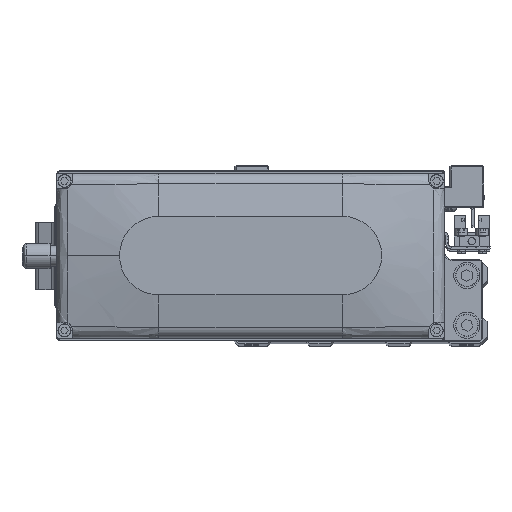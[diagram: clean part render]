
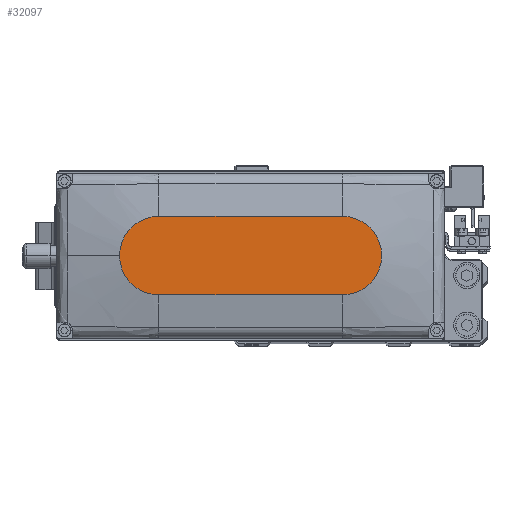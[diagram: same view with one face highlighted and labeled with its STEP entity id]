
A CAD part, top view. The second image highlights one B-rep face of the part: STEP entity #32097.
In plain terms, the highlighted planar face has unit normal (0, 0, 1).
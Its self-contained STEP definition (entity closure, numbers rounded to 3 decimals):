
#557 = EDGE_CURVE ( 'NONE', #7344, #18509, #33860, .T. ) ;
#558 = DIRECTION ( 'NONE',  ( 0., 0., 1. ) ) ;
#2078 = CIRCLE ( 'NONE', #25523, 15. ) ;
#3372 = LINE ( 'NONE', #16159, #13410 ) ;
#5028 = AXIS2_PLACEMENT_3D ( 'NONE', #15061, #27858, #40678 ) ;
#5048 = CARTESIAN_POINT ( 'NONE',  ( -35., 15., 35. ) ) ;
#5105 = CARTESIAN_POINT ( 'NONE',  ( -35., -15., 35. ) ) ;
#5255 = CARTESIAN_POINT ( 'NONE',  ( 35., 0., 35. ) ) ;
#5605 = CARTESIAN_POINT ( 'NONE',  ( 50., 0., 35. ) ) ;
#6434 = EDGE_CURVE ( 'NONE', #22986, #38468, #3372, .T. ) ;
#7344 = VERTEX_POINT ( 'NONE', #40230 ) ;
#8925 = CARTESIAN_POINT ( 'NONE',  ( 0., 0., 35. ) ) ;
#9302 = VECTOR ( 'NONE', #17878, 1000. ) ;
#10974 = CIRCLE ( 'NONE', #16345, 15. ) ;
#11590 = AXIS2_PLACEMENT_3D ( 'NONE', #8925, #21730, #34545 ) ;
#12426 = CARTESIAN_POINT ( 'NONE',  ( 35., -15., 35. ) ) ;
#12802 = ORIENTED_EDGE ( 'NONE', *, *, #27850, .T. ) ;
#13342 = DIRECTION ( 'NONE',  ( 1., 0., 0. ) ) ;
#13410 = VECTOR ( 'NONE', #28974, 1000. ) ;
#13764 = EDGE_CURVE ( 'NONE', #18509, #16479, #2078, .T. ) ;
#14213 = ORIENTED_EDGE ( 'NONE', *, *, #13764, .T. ) ;
#15061 = CARTESIAN_POINT ( 'NONE',  ( 35., 0., 35. ) ) ;
#15256 = ORIENTED_EDGE ( 'NONE', *, *, #557, .T. ) ;
#16159 = CARTESIAN_POINT ( 'NONE',  ( -35., 15., 35. ) ) ;
#16345 = AXIS2_PLACEMENT_3D ( 'NONE', #29314, #558, #13342 ) ;
#16479 = VERTEX_POINT ( 'NONE', #5605 ) ;
#17878 = DIRECTION ( 'NONE',  ( 1., 0., 0. ) ) ;
#18021 = EDGE_LOOP ( 'NONE', ( #31990, #33352, #15256, #14213, #12802 ) ) ;
#18032 = DIRECTION ( 'NONE',  ( 0., 0., 1. ) ) ;
#18509 = VERTEX_POINT ( 'NONE', #12426 ) ;
#21730 = DIRECTION ( 'NONE',  ( 0., 0., 1. ) ) ;
#22986 = VERTEX_POINT ( 'NONE', #37859 ) ;
#23114 = CIRCLE ( 'NONE', #5028, 15. ) ;
#24861 = FACE_OUTER_BOUND ( 'NONE', #18021, .T. ) ;
#25523 = AXIS2_PLACEMENT_3D ( 'NONE', #5255, #18032, #30862 ) ;
#26771 = EDGE_CURVE ( 'NONE', #38468, #7344, #10974, .T. ) ;
#27850 = EDGE_CURVE ( 'NONE', #16479, #22986, #23114, .T. ) ;
#27858 = DIRECTION ( 'NONE',  ( 0., 0., 1. ) ) ;
#28974 = DIRECTION ( 'NONE',  ( -1., 0., 0. ) ) ;
#29314 = CARTESIAN_POINT ( 'NONE',  ( -35., 0., 35. ) ) ;
#30862 = DIRECTION ( 'NONE',  ( 1., 0., 0. ) ) ;
#31990 = ORIENTED_EDGE ( 'NONE', *, *, #6434, .T. ) ;
#32097 = ADVANCED_FACE ( 'NONE', ( #24861 ), #37685, .T. ) ;
#33352 = ORIENTED_EDGE ( 'NONE', *, *, #26771, .T. ) ;
#33860 = LINE ( 'NONE', #5105, #9302 ) ;
#34545 = DIRECTION ( 'NONE',  ( 1., 0., 0. ) ) ;
#37685 = PLANE ( 'NONE',  #11590 ) ;
#37859 = CARTESIAN_POINT ( 'NONE',  ( 35., 15., 35. ) ) ;
#38468 = VERTEX_POINT ( 'NONE', #5048 ) ;
#40230 = CARTESIAN_POINT ( 'NONE',  ( -35., -15., 35. ) ) ;
#40678 = DIRECTION ( 'NONE',  ( 1., 0., 0. ) ) ;
